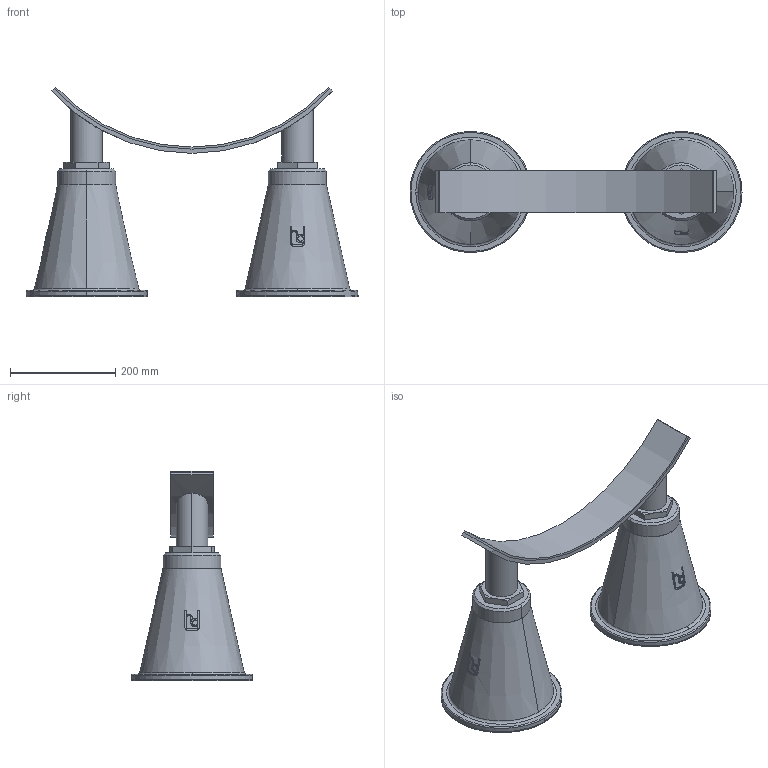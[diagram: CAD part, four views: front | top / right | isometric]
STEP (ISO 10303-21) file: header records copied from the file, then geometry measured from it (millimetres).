
FILE_DESCRIPTION(('STEP AP214'),'1');
FILE_NAME('RSRFA-DUO_DN700.stp','2018-07-02T08:13:17',(' '),(' '),'Spatial InterOp 3D',' ',' ');
FILE_SCHEMA(('automotive_design'));
Length unit declared in the file: millimetre
Products named in the file (10): 1; 2; 3; 4; 5; 6; 7; 8; 9; 10
Bounding box: 630 x 230 x 397.68 mm (x, y, z)
Volume: 11825368.1 mm3; surface area: 908711.8 mm2
Topology: 10 solids, 12 shells, 200 faces, 478 edges, 310 vertices
Faces by surface type: plane 84, cylinder 70, cone 38, torus 8
Entity records: 8607 total; most frequent: CARTESIAN_POINT 2164, DIRECTION 988, ORIENTED_EDGE 956, EDGE_CURVE 478, AXIS2_PLACEMENT_3D 388, VERTEX_POINT 310, EDGE_LOOP 216, LINE 212
